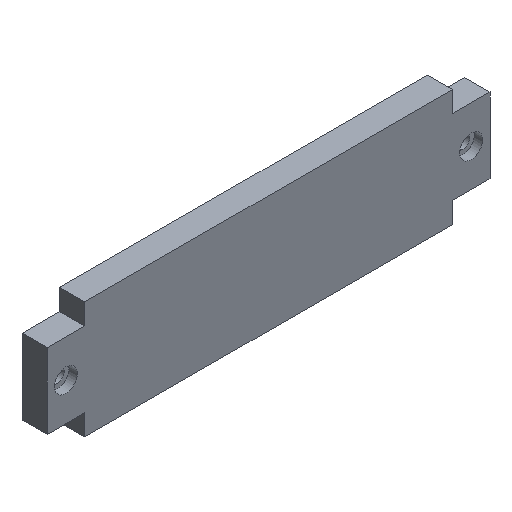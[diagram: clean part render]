
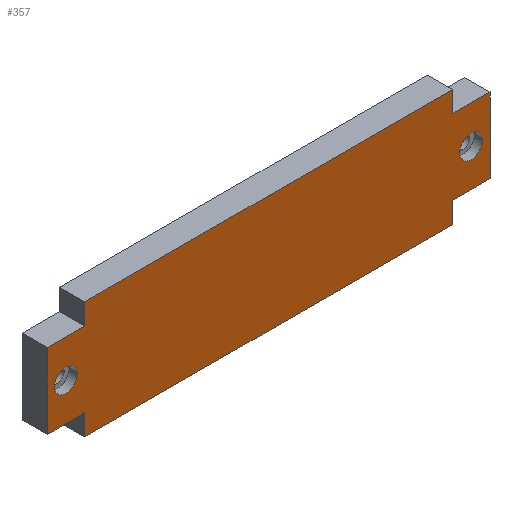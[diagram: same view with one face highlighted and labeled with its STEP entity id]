
A CAD part, isometric view. The second image highlights one B-rep face of the part: STEP entity #357.
In plain terms, the highlighted planar face has unit normal (0, -1, 0).
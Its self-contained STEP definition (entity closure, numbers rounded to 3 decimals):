
#17=FACE_BOUND('',#66,.T.);
#18=FACE_BOUND('',#67,.T.);
#23=PLANE('',#387);
#43=FACE_OUTER_BOUND('',#65,.T.);
#65=EDGE_LOOP('',(#271,#272,#273,#274,#275,#276,#277,#278,#279,#280,#281,
#282));
#66=EDGE_LOOP('',(#283));
#67=EDGE_LOOP('',(#284));
#87=LINE('',#529,#127);
#88=LINE('',#531,#128);
#89=LINE('',#533,#129);
#90=LINE('',#535,#130);
#91=LINE('',#537,#131);
#92=LINE('',#539,#132);
#93=LINE('',#541,#133);
#94=LINE('',#543,#134);
#95=LINE('',#545,#135);
#96=LINE('',#547,#136);
#97=LINE('',#549,#137);
#98=LINE('',#550,#138);
#127=VECTOR('',#437,10.);
#128=VECTOR('',#438,10.);
#129=VECTOR('',#439,10.);
#130=VECTOR('',#440,10.);
#131=VECTOR('',#441,10.);
#132=VECTOR('',#442,10.);
#133=VECTOR('',#443,10.);
#134=VECTOR('',#444,10.);
#135=VECTOR('',#445,10.);
#136=VECTOR('',#446,10.);
#137=VECTOR('',#447,10.);
#138=VECTOR('',#448,10.);
#167=CIRCLE('',#380,2.75);
#169=CIRCLE('',#384,2.75);
#175=VERTEX_POINT('',#513);
#177=VERTEX_POINT('',#520);
#179=VERTEX_POINT('',#527);
#180=VERTEX_POINT('',#528);
#181=VERTEX_POINT('',#530);
#182=VERTEX_POINT('',#532);
#183=VERTEX_POINT('',#534);
#184=VERTEX_POINT('',#536);
#185=VERTEX_POINT('',#538);
#186=VERTEX_POINT('',#540);
#187=VERTEX_POINT('',#542);
#188=VERTEX_POINT('',#544);
#189=VERTEX_POINT('',#546);
#190=VERTEX_POINT('',#548);
#209=EDGE_CURVE('',#175,#175,#167,.T.);
#212=EDGE_CURVE('',#177,#177,#169,.T.);
#215=EDGE_CURVE('',#179,#180,#87,.T.);
#216=EDGE_CURVE('',#180,#181,#88,.T.);
#217=EDGE_CURVE('',#181,#182,#89,.T.);
#218=EDGE_CURVE('',#183,#182,#90,.T.);
#219=EDGE_CURVE('',#184,#183,#91,.T.);
#220=EDGE_CURVE('',#184,#185,#92,.T.);
#221=EDGE_CURVE('',#186,#185,#93,.T.);
#222=EDGE_CURVE('',#187,#186,#94,.T.);
#223=EDGE_CURVE('',#187,#188,#95,.T.);
#224=EDGE_CURVE('',#189,#188,#96,.T.);
#225=EDGE_CURVE('',#190,#189,#97,.T.);
#226=EDGE_CURVE('',#179,#190,#98,.T.);
#271=ORIENTED_EDGE('',*,*,#215,.T.);
#272=ORIENTED_EDGE('',*,*,#216,.T.);
#273=ORIENTED_EDGE('',*,*,#217,.T.);
#274=ORIENTED_EDGE('',*,*,#218,.F.);
#275=ORIENTED_EDGE('',*,*,#219,.F.);
#276=ORIENTED_EDGE('',*,*,#220,.T.);
#277=ORIENTED_EDGE('',*,*,#221,.F.);
#278=ORIENTED_EDGE('',*,*,#222,.F.);
#279=ORIENTED_EDGE('',*,*,#223,.T.);
#280=ORIENTED_EDGE('',*,*,#224,.F.);
#281=ORIENTED_EDGE('',*,*,#225,.F.);
#282=ORIENTED_EDGE('',*,*,#226,.F.);
#283=ORIENTED_EDGE('',*,*,#209,.T.);
#284=ORIENTED_EDGE('',*,*,#212,.T.);
#357=ADVANCED_FACE('',(#43,#17,#18),#23,.T.);
#380=AXIS2_PLACEMENT_3D('',#514,#419,#420);
#384=AXIS2_PLACEMENT_3D('',#521,#428,#429);
#387=AXIS2_PLACEMENT_3D('',#526,#435,#436);
#419=DIRECTION('center_axis',(0.,1.,0.));
#420=DIRECTION('ref_axis',(1.,0.,0.));
#428=DIRECTION('center_axis',(0.,1.,0.));
#429=DIRECTION('ref_axis',(1.,0.,0.));
#435=DIRECTION('center_axis',(0.,-1.,0.));
#436=DIRECTION('ref_axis',(1.,0.,0.));
#437=DIRECTION('',(1.,0.,0.));
#438=DIRECTION('',(0.,0.,1.));
#439=DIRECTION('',(1.,0.,0.));
#440=DIRECTION('',(0.,0.,-1.));
#441=DIRECTION('',(1.,0.,0.));
#442=DIRECTION('',(0.,0.,1.));
#443=DIRECTION('',(1.,0.,0.));
#444=DIRECTION('',(0.,0.,1.));
#445=DIRECTION('',(-1.,0.,0.));
#446=DIRECTION('',(0.,0.,1.));
#447=DIRECTION('',(-1.,0.,0.));
#448=DIRECTION('',(0.,0.,1.));
#513=CARTESIAN_POINT('',(1.75,0.,14.));
#514=CARTESIAN_POINT('Origin',(4.5,0.,14.));
#520=CARTESIAN_POINT('',(98.75,0.,14.));
#521=CARTESIAN_POINT('Origin',(101.5,0.,14.));
#526=CARTESIAN_POINT('Origin',(9.,0.,0.));
#527=CARTESIAN_POINT('',(9.,0.,0.));
#528=CARTESIAN_POINT('',(97.,0.,0.));
#529=CARTESIAN_POINT('',(9.,0.,0.));
#530=CARTESIAN_POINT('',(97.,0.,5.));
#531=CARTESIAN_POINT('',(97.,0.,0.));
#532=CARTESIAN_POINT('',(106.,0.,5.));
#533=CARTESIAN_POINT('',(97.,0.,5.));
#534=CARTESIAN_POINT('',(106.,0.,23.));
#535=CARTESIAN_POINT('',(106.,0.,5.));
#536=CARTESIAN_POINT('',(97.,0.,23.));
#537=CARTESIAN_POINT('',(97.,0.,23.));
#538=CARTESIAN_POINT('',(97.,0.,28.));
#539=CARTESIAN_POINT('',(97.,0.,0.));
#540=CARTESIAN_POINT('',(9.,0.,28.));
#541=CARTESIAN_POINT('',(9.,0.,28.));
#542=CARTESIAN_POINT('',(9.,0.,23.));
#543=CARTESIAN_POINT('',(9.,0.,0.));
#544=CARTESIAN_POINT('',(0.,0.,23.));
#545=CARTESIAN_POINT('',(9.,0.,23.));
#546=CARTESIAN_POINT('',(0.,0.,5.));
#547=CARTESIAN_POINT('',(0.,0.,23.));
#548=CARTESIAN_POINT('',(9.,0.,5.));
#549=CARTESIAN_POINT('',(9.,0.,5.));
#550=CARTESIAN_POINT('',(9.,0.,0.));
